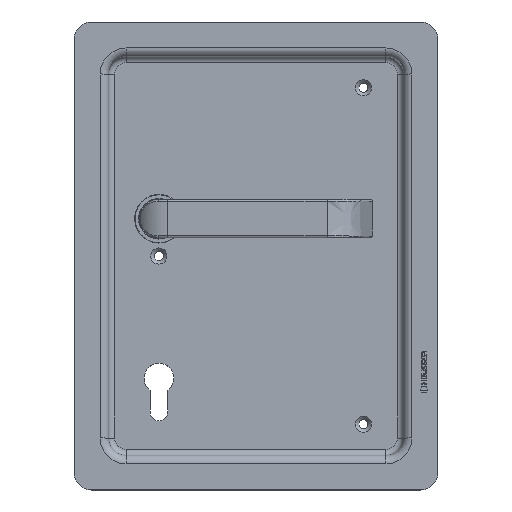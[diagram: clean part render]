
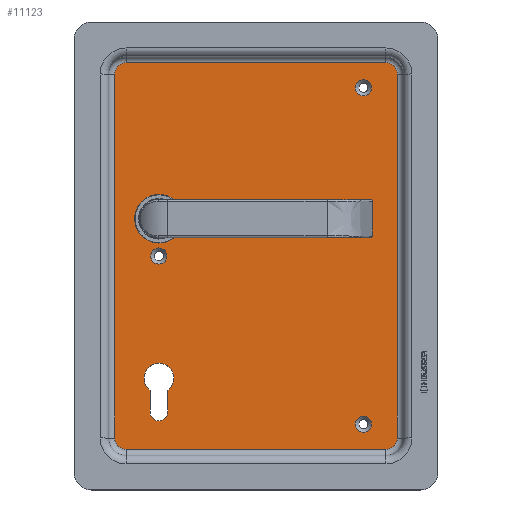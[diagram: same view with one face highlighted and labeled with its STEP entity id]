
A CAD part, top view. The second image highlights one B-rep face of the part: STEP entity #11123.
In plain terms, the highlighted planar face has unit normal (0, 0, 1).
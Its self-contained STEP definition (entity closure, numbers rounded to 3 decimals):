
#722=LINE('',#14873,#1683);
#723=LINE('',#14881,#1684);
#724=LINE('',#14891,#1685);
#727=LINE('',#14903,#1688);
#1006=LINE('',#16464,#1967);
#1007=LINE('',#16467,#1968);
#1683=VECTOR('',#12574,10.);
#1684=VECTOR('',#12585,10.);
#1685=VECTOR('',#12598,10.);
#1688=VECTOR('',#12613,10.);
#1967=VECTOR('',#13196,10.);
#1968=VECTOR('',#13199,10.);
#2696=FACE_BOUND('',#3637,.T.);
#2697=FACE_BOUND('',#3638,.T.);
#2698=FACE_BOUND('',#3639,.T.);
#2699=FACE_BOUND('',#3640,.T.);
#2700=FACE_BOUND('',#3641,.T.);
#2986=FACE_OUTER_BOUND('',#3636,.T.);
#3636=EDGE_LOOP('',(#8035,#8036,#8037,#8038,#8039,#8040,#8041,#8042));
#3637=EDGE_LOOP('',(#8043));
#3638=EDGE_LOOP('',(#8044,#8045,#8046,#8047));
#3639=EDGE_LOOP('',(#8048));
#3640=EDGE_LOOP('',(#8049));
#3641=EDGE_LOOP('',(#8050));
#4159=CIRCLE('',#11660,6.5);
#4162=CIRCLE('',#11665,6.5);
#4165=CIRCLE('',#11670,6.5);
#4169=CIRCLE('',#11676,6.5);
#4192=CIRCLE('',#11826,4.65);
#4193=CIRCLE('',#11828,4.65);
#4194=CIRCLE('',#11830,14.);
#4195=CIRCLE('',#11831,5.1);
#4196=CIRCLE('',#11832,8.6);
#4197=CIRCLE('',#11833,4.65);
#4379=VERTEX_POINT('',#14866);
#4380=VERTEX_POINT('',#14868);
#4381=VERTEX_POINT('',#14872);
#4382=VERTEX_POINT('',#14876);
#4383=VERTEX_POINT('',#14880);
#4384=VERTEX_POINT('',#14884);
#4386=VERTEX_POINT('',#14890);
#4388=VERTEX_POINT('',#14896);
#4666=VERTEX_POINT('',#16452);
#4667=VERTEX_POINT('',#16455);
#4668=VERTEX_POINT('',#16458);
#4669=VERTEX_POINT('',#16460);
#4670=VERTEX_POINT('',#16461);
#4671=VERTEX_POINT('',#16463);
#4672=VERTEX_POINT('',#16465);
#4673=VERTEX_POINT('',#16468);
#5461=EDGE_CURVE('',#4380,#4379,#4159,.T.);
#5463=EDGE_CURVE('',#4381,#4380,#722,.T.);
#5465=EDGE_CURVE('',#4382,#4381,#4162,.T.);
#5467=EDGE_CURVE('',#4383,#4382,#723,.T.);
#5469=EDGE_CURVE('',#4384,#4383,#4165,.T.);
#5472=EDGE_CURVE('',#4386,#4384,#724,.T.);
#5475=EDGE_CURVE('',#4388,#4386,#4169,.T.);
#5479=EDGE_CURVE('',#4379,#4388,#727,.T.);
#5900=EDGE_CURVE('',#4666,#4666,#4192,.T.);
#5901=EDGE_CURVE('',#4667,#4667,#4193,.T.);
#5902=EDGE_CURVE('',#4668,#4668,#4194,.T.);
#5903=EDGE_CURVE('',#4669,#4670,#4195,.T.);
#5904=EDGE_CURVE('',#4670,#4671,#1006,.T.);
#5905=EDGE_CURVE('',#4671,#4672,#4196,.T.);
#5906=EDGE_CURVE('',#4672,#4669,#1007,.T.);
#5907=EDGE_CURVE('',#4673,#4673,#4197,.T.);
#8035=ORIENTED_EDGE('',*,*,#5479,.T.);
#8036=ORIENTED_EDGE('',*,*,#5475,.T.);
#8037=ORIENTED_EDGE('',*,*,#5472,.T.);
#8038=ORIENTED_EDGE('',*,*,#5469,.T.);
#8039=ORIENTED_EDGE('',*,*,#5467,.T.);
#8040=ORIENTED_EDGE('',*,*,#5465,.T.);
#8041=ORIENTED_EDGE('',*,*,#5463,.T.);
#8042=ORIENTED_EDGE('',*,*,#5461,.T.);
#8043=ORIENTED_EDGE('',*,*,#5902,.T.);
#8044=ORIENTED_EDGE('',*,*,#5903,.T.);
#8045=ORIENTED_EDGE('',*,*,#5904,.T.);
#8046=ORIENTED_EDGE('',*,*,#5905,.T.);
#8047=ORIENTED_EDGE('',*,*,#5906,.T.);
#8048=ORIENTED_EDGE('',*,*,#5901,.F.);
#8049=ORIENTED_EDGE('',*,*,#5900,.F.);
#8050=ORIENTED_EDGE('',*,*,#5907,.F.);
#10092=PLANE('',#11829);
#11123=ADVANCED_FACE('',(#2986,#2696,#2697,#2698,#2699,#2700),#10092,.F.);
#11660=AXIS2_PLACEMENT_3D('',#14869,#12568,#12569);
#11665=AXIS2_PLACEMENT_3D('',#14877,#12579,#12580);
#11670=AXIS2_PLACEMENT_3D('',#14885,#12590,#12591);
#11676=AXIS2_PLACEMENT_3D('',#14897,#12604,#12605);
#11826=AXIS2_PLACEMENT_3D('',#16453,#13184,#13185);
#11828=AXIS2_PLACEMENT_3D('',#16456,#13188,#13189);
#11829=AXIS2_PLACEMENT_3D('',#16457,#13190,#13191);
#11830=AXIS2_PLACEMENT_3D('',#16459,#13192,#13193);
#11831=AXIS2_PLACEMENT_3D('',#16462,#13194,#13195);
#11832=AXIS2_PLACEMENT_3D('',#16466,#13197,#13198);
#11833=AXIS2_PLACEMENT_3D('',#16469,#13200,#13201);
#12568=DIRECTION('center_axis',(0.,0.,
1.));
#12569=DIRECTION('ref_axis',(-0.707,-0.707,0.));
#12574=DIRECTION('',(0.,-1.,0.));
#12579=DIRECTION('center_axis',(0.,0.,
1.));
#12580=DIRECTION('ref_axis',(-0.707,0.707,0.));
#12585=DIRECTION('',(-1.,0.,0.));
#12590=DIRECTION('center_axis',(0.,0.,
1.));
#12591=DIRECTION('ref_axis',(0.707,0.707,0.));
#12598=DIRECTION('',(0.,1.,0.));
#12604=DIRECTION('center_axis',(0.,0.,
1.));
#12605=DIRECTION('ref_axis',(0.707,-0.707,0.));
#12613=DIRECTION('',(1.,0.,0.));
#13184=DIRECTION('center_axis',(0.,0.,
1.));
#13185=DIRECTION('ref_axis',(-1.,0.,0.));
#13188=DIRECTION('center_axis',(0.,0.,
1.));
#13189=DIRECTION('ref_axis',(-1.,0.,0.));
#13190=DIRECTION('center_axis',(0.,0.,
-1.));
#13191=DIRECTION('ref_axis',(-1.,0.,0.));
#13192=DIRECTION('center_axis',(0.,0.,
-1.));
#13193=DIRECTION('ref_axis',(0.,1.,0.));
#13194=DIRECTION('center_axis',(0.,0.,
-1.));
#13195=DIRECTION('ref_axis',(1.,0.,0.));
#13196=DIRECTION('',(0.,1.,0.));
#13197=DIRECTION('center_axis',(0.,0.,
-1.));
#13198=DIRECTION('ref_axis',(-0.593,0.805,0.));
#13199=DIRECTION('',(0.,-1.,0.));
#13200=DIRECTION('center_axis',(0.,0.,
1.));
#13201=DIRECTION('ref_axis',(-1.,0.,0.));
#14866=CARTESIAN_POINT('',(-106.527,-85.008,-9.));
#14868=CARTESIAN_POINT('',(-113.027,-78.508,-9.));
#14869=CARTESIAN_POINT('Origin',(-106.527,-78.508,-9.));
#14872=CARTESIAN_POINT('',(-113.027,131.492,-9.));
#14873=CARTESIAN_POINT('',(-113.027,78.992,-9.));
#14876=CARTESIAN_POINT('',(-106.527,137.992,-9.));
#14877=CARTESIAN_POINT('Origin',(-106.527,131.492,-9.));
#14880=CARTESIAN_POINT('',(43.473,137.992,-9.));
#14881=CARTESIAN_POINT('',(5.973,137.992,-9.));
#14884=CARTESIAN_POINT('',(49.973,131.492,-9.));
#14885=CARTESIAN_POINT('Origin',(43.473,131.492,-9.));
#14890=CARTESIAN_POINT('',(49.973,-78.508,-9.));
#14891=CARTESIAN_POINT('',(49.973,-26.008,-9.));
#14896=CARTESIAN_POINT('',(43.473,-85.008,-9.));
#14897=CARTESIAN_POINT('Origin',(43.473,-78.508,-9.));
#14903=CARTESIAN_POINT('',(-69.027,-85.008,-9.));
#16452=CARTESIAN_POINT('',(35.123,123.492,-9.));
#16453=CARTESIAN_POINT('Origin',(30.473,123.492,-9.));
#16455=CARTESIAN_POINT('',(35.123,-70.508,-9.));
#16456=CARTESIAN_POINT('Origin',(30.473,-70.508,-9.));
#16457=CARTESIAN_POINT('Origin',(-31.527,26.492,-9.));
#16458=CARTESIAN_POINT('',(-87.527,33.992,-9.));
#16459=CARTESIAN_POINT('Origin',(-87.527,47.992,-9.));
#16460=CARTESIAN_POINT('',(-82.427,-63.508,-9.));
#16461=CARTESIAN_POINT('',(-92.627,-63.508,-9.));
#16462=CARTESIAN_POINT('Origin',(-87.527,-63.508,-9.));
#16463=CARTESIAN_POINT('',(-92.627,-50.933,-9.));
#16464=CARTESIAN_POINT('',(-92.627,-18.508,-9.));
#16465=CARTESIAN_POINT('',(-82.427,-50.933,-9.));
#16466=CARTESIAN_POINT('Origin',(-87.527,-44.008,-9.));
#16467=CARTESIAN_POINT('',(-82.427,-12.221,-9.));
#16468=CARTESIAN_POINT('',(-82.877,26.492,-9.));
#16469=CARTESIAN_POINT('Origin',(-87.527,26.492,-9.));
